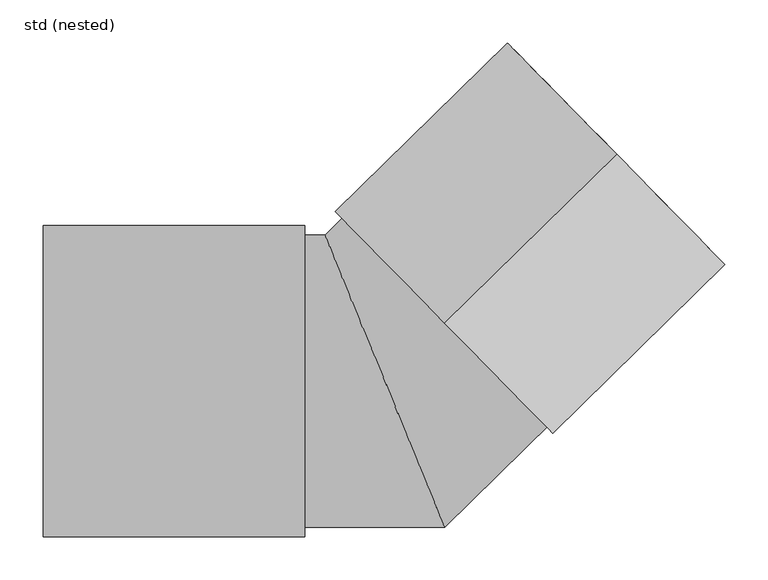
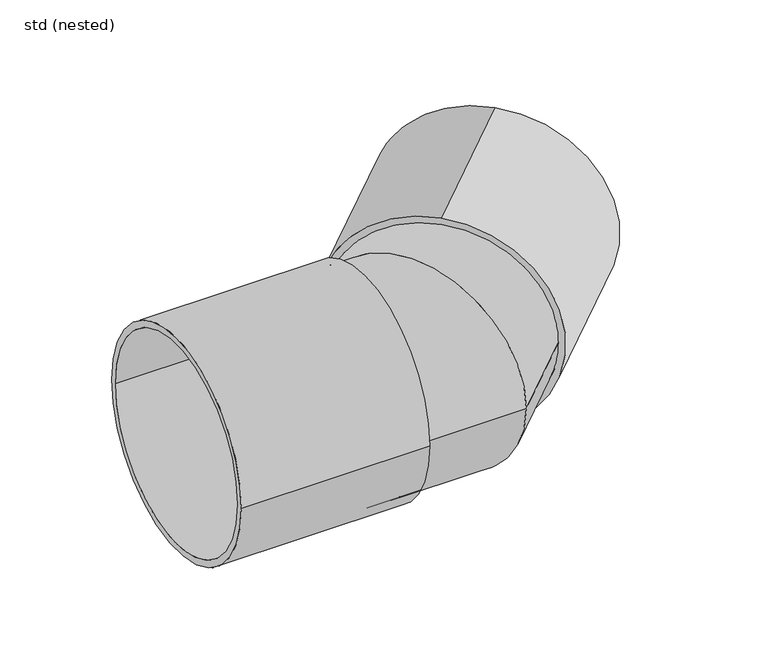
"""IFC4 building model written with IfcOpenShell, lengths in millimetres: pipe fitting geometry, NLRS_52_PIF_WPB_Ultra Kyma bocht 1MV SH_Dyka : std (nested)."""

from ifc_helpers import new_model, si_unit, point, frame, origin, origin_2d, place, context, project, spatial, circle_curve, ellipse_curve, trimmed, segment, composite_curve, outline, extrude, source, transform, mapped, element, save
from ifc_brep_helpers import plane_surface, cylinder_surface, advanced_brep


def std_nested_1240db5c(model_context):
    return source(origin(), model_context, "Body", "SolidModel", [
        advanced_brep(
        [(-104.9507132, -170.0, 0.0), (69.4226508, -170.0, 0.0), (-69.4226508, 170.0, 0.0), (-104.9507132, 170.0, 0.0), (193.9498966, -47.9383962, 0.0), (74.9496538, 73.4656492, 170.0), (-44.050589, 194.8696945, 0.0), (74.9496538, 73.4656492, -170.0), (169.251522, 165.9003385, -170.0), (169.251522, 165.9003385, 170.0), (-233.0, -170.0, 0.0), (-233.0, 170.0, 0.0)],
        [
            (0, 1),
            (1, 2, ellipse_curve(frame((0.0, 0.0, 0.0), z_axis=(-0.9257811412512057, -0.3780598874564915, 0.0), x_axis=(-0.37805988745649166, 0.9257811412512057, 0.0)), 183.6287136, 170.0)),
            (2, 3),
            (3, 0, circle_curve(frame((-104.9507132, 0.0, 0.0), z_axis=(1.0, 0.0, 0.0), x_axis=(0.0, 1.0, 0.0)), 170.0)),
            (0, 3, circle_curve(frame((-104.9507132, 0.0, 0.0), z_axis=(1.0, 0.0, 0.0), x_axis=(0.0, 1.0, 0.0)), 170.0)),
            (2, 1, ellipse_curve(frame((0.0, 0.0, 0.0), z_axis=(-0.9257811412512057, -0.3780598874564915, 0.0), x_axis=(-0.37805988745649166, 0.9257811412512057, 0.0)), 183.6287136, 170.0)),
            (1, 4),
            (4, 5, circle_curve(frame((74.9496538, 73.4656492, 0.0), z_axis=(-0.7141414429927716, -0.7000014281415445, 0.0), x_axis=(-0.7000014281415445, 0.7141414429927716, 0.0)), 170.0)),
            (5, 6, circle_curve(frame((74.9496538, 73.4656492, 0.0), z_axis=(-0.7141414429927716, -0.7000014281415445, 0.0), x_axis=(-0.7000014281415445, 0.7141414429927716, 0.0)), 170.0)),
            (6, 2),
            (6, 7, circle_curve(frame((74.9496538, 73.4656492, 0.0), z_axis=(-0.7141414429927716, -0.7000014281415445, 0.0), x_axis=(-0.7000014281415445, 0.7141414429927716, 0.0)), 170.0)),
            (7, 4, circle_curve(frame((74.9496538, 73.4656492, 0.0), z_axis=(-0.7141414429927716, -0.7000014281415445, 0.0), x_axis=(-0.7000014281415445, 0.7141414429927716, 0.0)), 170.0)),
            (8, 9, circle_curve(frame((169.251522, 165.9003385, 0.0), z_axis=(0.714141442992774, 0.7000014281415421, 0.0), x_axis=(0.0, 0.0, 1.0)), 170.0)),
            (9, 8, circle_curve(frame((169.251522, 165.9003385, 0.0), z_axis=(0.714141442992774, 0.7000014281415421, 0.0), x_axis=(0.0, 0.0, 1.0)), 170.0)),
            (8, 7),
            (5, 9),
            (10, 11, circle_curve(frame((-233.0, 0.0, 0.0), z_axis=(-1.0, 0.0, 0.0), x_axis=(0.0, 1.0, 0.0)), 170.0)),
            (11, 10, circle_curve(frame((-233.0, 0.0, 0.0), z_axis=(-1.0, 0.0, 0.0), x_axis=(0.0, 1.0, 0.0)), 170.0)),
            (10, 0),
            (3, 11),
        ],
        [
            cylinder_surface(frame((-104.9507132, 0.0, 0.0), z_axis=(-1.0, 0.0, 0.0), x_axis=(0.0, 1.0, 0.0)), 170.0),
            cylinder_surface(frame((0.0, 0.0, 0.0), z_axis=(-0.7141414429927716, -0.7000014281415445, 0.0), x_axis=(-0.7000014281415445, 0.7141414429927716, 0.0)), 170.0),
            plane_surface(frame((169.251522, 165.9003385, 170.0), z_axis=(0.7141414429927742, 0.700001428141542, 0.0), x_axis=(0.700001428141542, -0.7141414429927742, 0.0))),
            cylinder_surface(frame((74.9496538, 73.4656492, 0.0), z_axis=(0.714141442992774, 0.7000014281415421, 0.0), x_axis=(0.0, 0.0, 1.0)), 170.0),
            plane_surface(frame((-233.0, 170.0, 0.0), z_axis=(-1.0, 0.0, 0.0), x_axis=(0.0, 0.0, -1.0))),
        ],
        [
            (0, [[1, 2, 3, 4]]),
            (0, [[-1, 5, -3, 6]]),
            (1, [[-2, 7, 8, 9, 10]]),
            (1, [[-6, -10, 11, 12, -7]]),
            (2, [[13, 14]]),
            (3, [[-13, 15, -11, -9, 16]]),
            (3, [[-14, -16, -8, -12, -15]]),
            (4, [[17, 18]]),
            (0, [[-17, 19, -4, 20]]),
            (0, [[-18, -20, -5, -19]]),
        ],
    ),
        extrude(outline(composite_curve([segment(trimmed(circle_curve(origin_2d(), 181.0), [point((-181.0, 0.0))], [point((181.0, 0.0))], False, "CARTESIAN"), True, "CONTINUOUS"), segment(trimmed(circle_curve(origin_2d(), 181.0), [point((181.0, 0.0))], [point((-181.0, 0.0))], False, "CARTESIAN"), True, "CONTINUOUS")], self_intersect=False), holes=[composite_curve([segment(trimmed(circle_curve(origin_2d(), 170.0), [point((170.0, 0.0))], [point((-170.0, 0.0))], True, "CARTESIAN"), True, "CONTINUOUS"), segment(trimmed(circle_curve(origin_2d(), 170.0), [point((-170.0, 0.0))], [point((170.0, 0.0))], True, "CARTESIAN"), True, "CONTINUOUS")], self_intersect=False)]), frame((69.27172, 67.9001385, 0.0), z_axis=(0.714141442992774, 0.7000014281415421, 0.0), x_axis=(0.0, 0.0, 1.0)), (0.0, 0.0, 1.0), 280.0),
        extrude(outline(composite_curve([segment(trimmed(circle_curve(origin_2d(), 181.0), [point((181.0, 0.0))], [point((-181.0, 0.0))], False, "CARTESIAN"), True, "CONTINUOUS"), segment(trimmed(circle_curve(origin_2d(), 181.0), [point((-181.0, 0.0))], [point((181.0, 0.0))], False, "CARTESIAN"), True, "CONTINUOUS")], self_intersect=False), holes=[composite_curve([segment(trimmed(circle_curve(origin_2d(), 170.0), [point((-170.0, 0.0))], [point((170.0, 0.0))], True, "CARTESIAN"), True, "CONTINUOUS"), segment(trimmed(circle_curve(origin_2d(), 170.0), [point((170.0, 0.0))], [point((-170.0, 0.0))], True, "CARTESIAN"), True, "CONTINUOUS")], self_intersect=False)]), frame((-397.0, 0.0, 0.0), z_axis=(1.0, 0.0, 0.0), x_axis=(0.0, 1.0, 0.0)), (0.0, 0.0, 1.0), 304.0),
    ])


if __name__ == "__main__":
    model = new_model("IFC4")
    model_context = context("Model", 3, world=origin())
    ifc_project = project(units=[si_unit("LENGTHUNIT", "METRE", prefix="MILLI")], contexts=[model_context])
    site = spatial("IfcSite", under=ifc_project)
    building = spatial("IfcBuilding", under=site)
    placement = place(None, origin())
    std_nested_shape = std_nested_1240db5c(model_context)
    element("IfcPipeFitting", 1, ObjectType="NLRS_52_PIF_WPB_Ultra Kyma bocht 1MV SH_Dyka : std (nested)", at=placement, inside=building, context=model_context, shape_type="MappedRepresentation", body=[
        mapped(std_nested_shape, transform((0.0, 0.0, 0.0), x_axis=(1.0, 0.0, 0.0), y_axis=(0.0, 1.0, 0.0), z_axis=(0.0, 0.0, 1.0))),
    ])
    save(model, "model.ifc")
